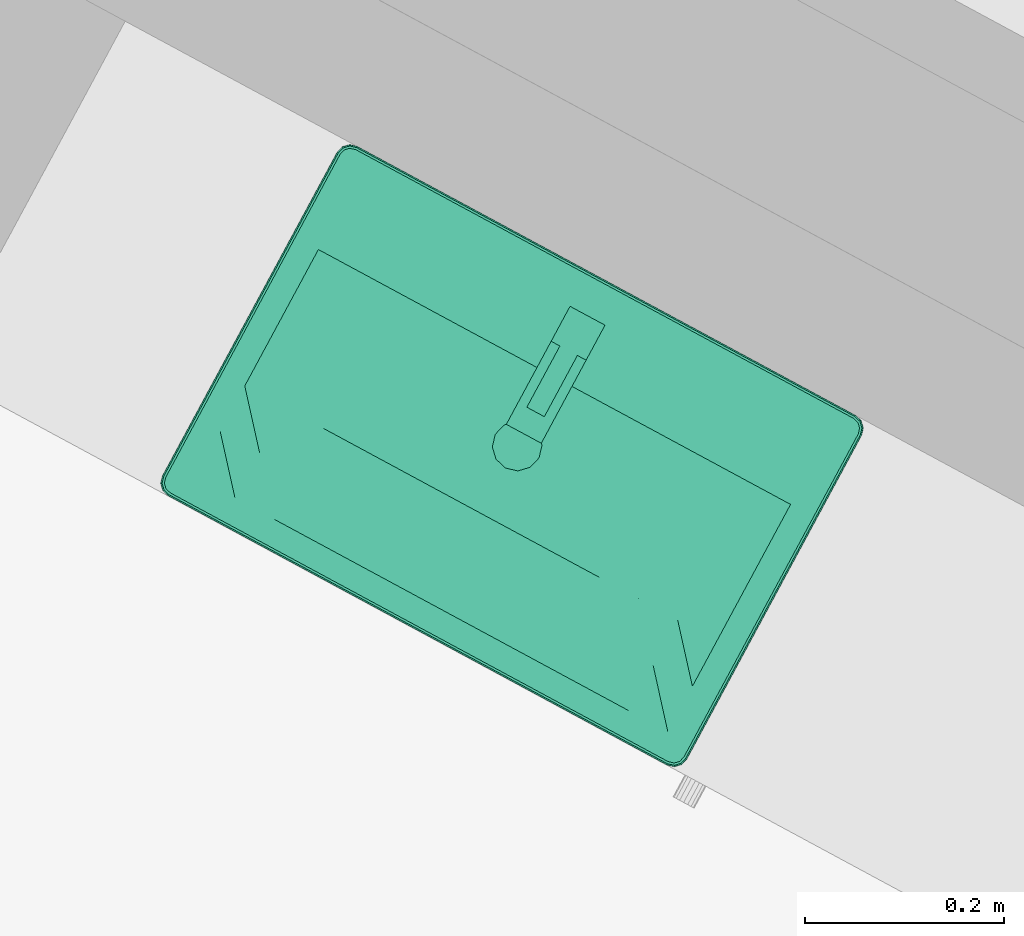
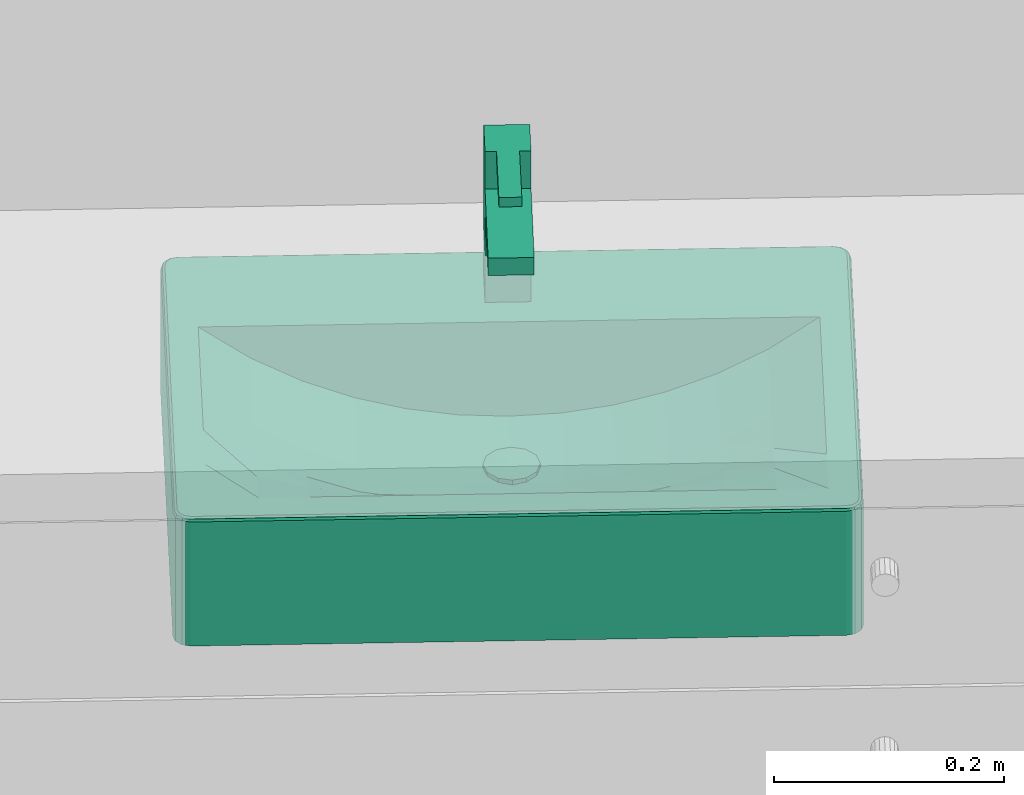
# One storey, part 17 of 36: 1 flow terminal.
"""IFC2X3 building model written with IfcOpenShell, lengths in metres."""

from ifc_helpers import new_model, entity, si_unit, converted_unit, derived_unit, money_unit, direction, frame, origin_with_axes, place, context, subcontext, project, spatial, open_shell, faceted_brep, surface_model, type_object, element, save


model = new_model("IFC2X3")

# Units and contexts
model_context = context("Model", 3, precision=1e-05, world=origin_with_axes(), true_north=direction((0.0, 1.0)))
body_context = subcontext(model_context, "Body", "Model", "MODEL_VIEW")
ifc_project = project(units=[si_unit("LENGTHUNIT", "METRE"), si_unit("AREAUNIT", "SQUARE_METRE"), si_unit("VOLUMEUNIT", "CUBIC_METRE"), converted_unit("PLANEANGLEUNIT", "DEGREE", entity("IfcPlaneAngleMeasure", 0.0174532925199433), si_unit("PLANEANGLEUNIT", "RADIAN"), dimensions=[0, 0, 0, 0, 0, 0, 0]), money_unit("EUR"), converted_unit("TIMEUNIT", "Year", entity("IfcTimeMeasure", 31556926.0), si_unit("TIMEUNIT", "SECOND"), dimensions=[0, 0, 1, 0, 0, 0, 0]), si_unit("MASSUNIT", "GRAM", prefix="KILO"), si_unit("THERMODYNAMICTEMPERATUREUNIT", "DEGREE_CELSIUS"), si_unit("LUMINOUSINTENSITYUNIT", "LUMEN"), si_unit("ENERGYUNIT", "JOULE", prefix="MEGA"), derived_unit("THERMALCONDUCTANCEUNIT", [(si_unit("POWERUNIT", "WATT"), 1), (si_unit("LENGTHUNIT", "METRE"), -1), (si_unit("THERMODYNAMICTEMPERATUREUNIT", "KELVIN"), -1)]), derived_unit("SPECIFICHEATCAPACITYUNIT", [(si_unit("ENERGYUNIT", "JOULE"), 1), (si_unit("MASSUNIT", "GRAM", prefix="KILO"), -1), (si_unit("THERMODYNAMICTEMPERATUREUNIT", "KELVIN"), -1)]), derived_unit("MASSDENSITYUNIT", [(si_unit("MASSUNIT", "GRAM", prefix="KILO"), 1), (si_unit("VOLUMEUNIT", "CUBIC_METRE"), -1)])], contexts=[model_context])

# Site, building, storey
site_placement = place(None, frame((-3.949935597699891, 1.740105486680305, 0.0), z_axis=(0.0, 0.0, 1.0), x_axis=(0.8799804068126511, -0.475009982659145, 0.0)))
site = spatial("IfcSite", under=ifc_project, at=site_placement, Name="Gelände", CompositionType="ELEMENT")
building_placement = place(site_placement, origin_with_axes())
building = spatial("IfcBuilding", under=site, at=building_placement, Name="Gebäude", CompositionType="ELEMENT")
storey_placement = place(building_placement, origin_with_axes())
storey = spatial("IfcBuildingStorey", under=building, at=storey_placement, Name="Erdgeschoss", CompositionType="ELEMENT", Elevation=0.0)

# Flow terminal
sanitary_terminal_type = type_object("IfcSanitaryTerminalType", Name="Waschbecken 1 22", PredefinedType="NOTDEFINED")
flow_terminal_placement = place(storey_placement, frame((16.53573121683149, 6.588040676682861, 0.0), z_axis=(0.0, 0.0, 1.0), x_axis=(1.0, 0.0, 0.0)))
element("IfcFlowTerminal", 1, at=flow_terminal_placement, inside=storey, type_object=sanitary_terminal_type, Name="Objekt-0061", context=body_context, shape_type="SurfaceModel", body=[
    faceted_brep([(-0.285, -0.4, 0.715), (-0.2925, -0.3979903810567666, 0.715), (-0.2979903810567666, -0.3925, 0.715), (-0.3, -0.385, 0.715), (-0.3, -0.01499999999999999, 0.715), (-0.2979903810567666, -0.007500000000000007, 0.715), (-0.2925, -0.002009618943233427, 0.715), (-0.285, 0.0, 0.715), (0.285, 0.0, 0.715), (0.2925, -0.002009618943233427, 0.715), (0.2979903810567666, -0.007500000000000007, 0.715), (0.3, -0.01499999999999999, 0.715), (0.3, -0.385, 0.715), (0.2979903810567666, -0.3925, 0.715), (0.2925, -0.3979903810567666, 0.715), (0.285, -0.4, 0.715), (0.27, -0.37, 0.715), (0.27, -0.11, 0.715), (-0.27, -0.11, 0.715), (-0.27, -0.37, 0.715), (-0.2849999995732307, -0.4000000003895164, 0.845), (-0.292499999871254, -0.3979903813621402, 0.845), (-0.297990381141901, -0.3925000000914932, 0.845), (-0.3000000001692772, -0.3849999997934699, 0.845), (-0.3000000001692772, -0.01499999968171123, 0.845), (-0.297990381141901, -0.00750000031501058, 0.845), (-0.292499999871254, -0.002009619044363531, 0.845), (-0.2849999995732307, 0.0, 0.845), (0.2849999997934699, 0.0, 0.845), (0.2925000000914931, -0.002009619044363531, 0.845), (0.2979903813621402, -0.00750000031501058, 0.845), (0.3000000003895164, -0.01499999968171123, 0.845), (0.3000000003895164, -0.3849999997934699, 0.845), (0.2979903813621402, -0.3925000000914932, 0.845), (0.2925000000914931, -0.3979903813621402, 0.845), (0.2849999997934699, -0.4000000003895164, 0.845), (0.27, -0.11, 0.84999999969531), (0.27, -0.37, 0.84999999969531), (-0.27, -0.11, 0.84999999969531), (-0.27, -0.37, 0.84999999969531), (-0.2849775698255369, -0.3998296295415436, 0.8462940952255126), (-0.292411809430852, -0.3978376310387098, 0.8462940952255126), (-0.2978376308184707, -0.3924118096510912, 0.8462940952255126), (-0.2998296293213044, -0.3849775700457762, 0.8462940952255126), (-0.2998296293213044, -0.01502242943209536, 0.8462940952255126), (-0.2978376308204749, -0.007588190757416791, 0.8462940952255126), (-0.292411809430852, -0.002162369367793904, 0.8462940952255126), (-0.2849775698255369, -0.0001703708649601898, 0.8462940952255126), (0.2849775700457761, -0.0001703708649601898, 0.8462940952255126), (0.2924118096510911, -0.002162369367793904, 0.8462940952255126), (0.297837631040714, -0.007588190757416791, 0.8462940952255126), (0.2998296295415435, -0.01502242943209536, 0.8462940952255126), (0.2998296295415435, -0.3849775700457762, 0.8462940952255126), (0.2978376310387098, -0.3924118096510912, 0.8462940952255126), (0.2924118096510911, -0.3978376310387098, 0.8462940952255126), (0.2849775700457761, -0.3998296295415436, 0.8462940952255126), (0.2843417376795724, -0.004999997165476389, 0.84999999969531), (-0.2843417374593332, -0.004999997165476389, 0.84999999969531), (-0.2899118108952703, -0.006492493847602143, 0.84999999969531), (-0.2935075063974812, -0.01008818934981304, 0.84999999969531), (-0.2950000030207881, -0.01565826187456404, 0.84999999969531), (-0.2950000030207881, -0.3843417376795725, 0.84999999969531), (-0.2935075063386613, -0.3899118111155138, 0.84999999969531), (-0.2899118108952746, -0.3935075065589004, 0.84999999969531), (-0.2843417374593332, -0.3950000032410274, 0.84999999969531), (0.2843417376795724, -0.3950000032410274, 0.84999999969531), (0.2899118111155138, -0.3935075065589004, 0.84999999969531), (0.2935075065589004, -0.3899118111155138, 0.84999999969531), (0.2950000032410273, -0.3843417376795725, 0.84999999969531), (0.2950000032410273, -0.01565826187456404, 0.84999999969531), (0.2935075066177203, -0.01008818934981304, 0.84999999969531), (0.2899118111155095, -0.006492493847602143, 0.84999999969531), (-0.2848071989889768, -0.3985355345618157, 0.8485355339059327), (-0.2917419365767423, -0.3966773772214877, 0.8485355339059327), (-0.2966773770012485, -0.3917419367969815, 0.8485355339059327), (-0.2985355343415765, -0.384807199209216, 0.8485355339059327), (-0.2985355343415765, -0.0151928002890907, 0.8485355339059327), (-0.2966773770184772, -0.008258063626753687, 0.8485355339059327), (-0.2917419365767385, -0.003322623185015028, 0.8485355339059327), (-0.2848071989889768, -0.001464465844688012, 0.8485355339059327), (0.2848071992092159, -0.001464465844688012, 0.8485355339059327), (0.2917419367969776, -0.003322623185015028, 0.8485355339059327), (0.2966773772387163, -0.008258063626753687, 0.8485355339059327), (0.2985355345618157, -0.0151928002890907, 0.8485355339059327), (0.2985355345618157, -0.384807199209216, 0.8485355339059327), (0.2966773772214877, -0.3917419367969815, 0.8485355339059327), (0.2917419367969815, -0.3966773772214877, 0.8485355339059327), (0.2848071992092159, -0.3985355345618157, 0.8485355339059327), (0.2845121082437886, -0.00370590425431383, 0.8498296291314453), (-0.2845121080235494, -0.00370590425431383, 0.8498296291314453), (-0.290581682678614, -0.005332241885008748, 0.8498296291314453), (-0.2946677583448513, -0.009418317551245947, 0.8498296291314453), (-0.2962940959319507, -0.01548789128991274, 0.8498296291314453), (-0.2962940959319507, -0.3845121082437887, 0.8498296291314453), (-0.2946677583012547, -0.3905816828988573, 0.8498296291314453), (-0.2905816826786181, -0.3946677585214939, 0.8498296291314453), (-0.2845121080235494, -0.3962940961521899, 0.8498296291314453), (0.2845121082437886, -0.3962940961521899, 0.8498296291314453), (0.2905816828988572, -0.3946677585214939, 0.8498296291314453), (0.2946677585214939, -0.3905816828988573, 0.8498296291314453), (0.2962940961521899, -0.3845121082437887, 0.8498296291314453), (0.2962940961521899, -0.01548789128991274, 0.8498296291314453), (0.2946677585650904, -0.009418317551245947, 0.8498296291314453), (0.2905816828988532, -0.005332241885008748, 0.8498296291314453)], [[[0, 1, 2, 3, 4, 5, 6, 7, 8, 9, 10, 11, 12, 13, 14, 15], [16, 17, 18, 19]], [[1, 0, 20, 21]], [[2, 1, 21, 22]], [[3, 2, 22, 23]], [[4, 3, 23, 24]], [[5, 4, 24, 25]], [[6, 5, 25, 26]], [[7, 6, 26, 27]], [[8, 7, 27, 28]], [[9, 8, 28, 29]], [[10, 9, 29, 30]], [[11, 10, 30, 31]], [[12, 11, 31, 32]], [[13, 12, 32, 33]], [[14, 13, 33, 34]], [[15, 14, 34, 35]], [[0, 15, 35, 20]], [[36, 17, 16, 37]], [[38, 18, 17, 36]], [[39, 19, 18, 38]], [[37, 16, 19, 39]], [[21, 20, 40, 41]], [[22, 21, 41, 42]], [[23, 22, 42, 43]], [[24, 23, 43, 44]], [[25, 24, 44, 45]], [[26, 25, 45, 46]], [[27, 26, 46, 47]], [[28, 27, 47, 48]], [[29, 28, 48, 49]], [[30, 29, 49, 50]], [[31, 30, 50, 51]], [[32, 31, 51, 52]], [[33, 32, 52, 53]], [[34, 33, 53, 54]], [[35, 34, 54, 55]], [[20, 35, 55, 40]], [[56, 57, 58, 59, 60, 61, 62, 63, 64, 65, 66, 67, 68, 69, 70, 71], [37, 39, 38, 36]], [[41, 40, 72, 73]], [[42, 41, 73, 74]], [[43, 42, 74, 75]], [[44, 43, 75, 76]], [[45, 44, 76, 77]], [[46, 45, 77, 78]], [[47, 46, 78, 79]], [[48, 47, 79, 80]], [[49, 48, 80, 81]], [[50, 49, 81, 82]], [[51, 50, 82, 83]], [[52, 51, 83, 84]], [[53, 52, 84, 85]], [[54, 53, 85, 86]], [[55, 54, 86, 87]], [[40, 55, 87, 72]], [[88, 89, 57, 56]], [[89, 90, 58, 57]], [[90, 91, 59, 58]], [[91, 92, 60, 59]], [[92, 93, 61, 60]], [[93, 94, 62, 61]], [[94, 95, 63, 62]], [[95, 96, 64, 63]], [[96, 97, 65, 64]], [[97, 98, 66, 65]], [[98, 99, 67, 66]], [[99, 100, 68, 67]], [[100, 101, 69, 68]], [[101, 102, 70, 69]], [[102, 103, 71, 70]], [[103, 88, 56, 71]], [[73, 72, 96, 95]], [[74, 73, 95, 94]], [[75, 74, 94, 93]], [[76, 75, 93, 92]], [[77, 76, 92, 91]], [[78, 77, 91, 90]], [[79, 78, 90, 89]], [[80, 79, 89, 88]], [[81, 80, 88, 103]], [[82, 81, 103, 102]], [[83, 82, 102, 101]], [[84, 83, 101, 100]], [[85, 84, 100, 99]], [[86, 85, 99, 98]], [[87, 86, 98, 97]], [[72, 87, 97, 96]]]),
    faceted_brep([(0.27, -0.37, 0.715), (-0.27, -0.37, 0.715), (-0.27, -0.11, 0.715), (0.27, -0.11, 0.715), (-0.01249999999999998, -0.210733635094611, 0.715), (0.0, -0.214083, 0.715), (0.01250000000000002, -0.210733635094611, 0.715), (0.02165063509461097, -0.201583, 0.715), (0.025, -0.189083, 0.715), (0.02165063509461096, -0.176583, 0.715), (0.01249999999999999, -0.167432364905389, 0.715), (0.0, -0.164083, 0.715), (-0.01250000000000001, -0.167432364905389, 0.715), (-0.02165063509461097, -0.176583, 0.715), (-0.025, -0.189083, 0.715), (-0.02165063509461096, -0.201583, 0.715), (0.135, -0.37, 0.85), (0.09, -0.37, 0.85), (0.04499999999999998, -0.37, 0.85), (0.0, -0.37, 0.85), (-0.04500000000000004, -0.37, 0.85), (-0.09000000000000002, -0.37, 0.85), (-0.135, -0.37, 0.85), (-0.18, -0.37, 0.85), (-0.225, -0.37, 0.85), (-0.27, -0.37, 0.85), (0.27, -0.37, 0.85), (0.225, -0.37, 0.85), (0.18, -0.37, 0.85), (-0.27, -0.214, 0.8499999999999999), (-0.27, -0.162, 0.8499999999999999), (-0.27, -0.11, 0.8499999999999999), (-0.27, -0.318, 0.85), (-0.27, -0.266, 0.8499999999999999), (-0.135, -0.11, 0.7726004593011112), (-0.09000000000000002, -0.11, 0.7598887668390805), (-0.04500000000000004, -0.11, 0.752449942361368), (0.0, -0.11, 0.75), (0.04499999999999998, -0.11, 0.752449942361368), (0.09, -0.11, 0.7598887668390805), (0.135, -0.11, 0.7726004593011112), (0.18, -0.11, 0.7911231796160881), (0.225, -0.11, 0.8163832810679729), (0.27, -0.11, 0.8500000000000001), (-0.225, -0.11, 0.8163832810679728), (-0.18, -0.11, 0.7911231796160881), (0.27, -0.266, 0.85), (0.27, -0.318, 0.85), (0.27, -0.162, 0.8500000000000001), (0.27, -0.214, 0.8500000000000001), (-0.0003097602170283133, -0.214, 0.7500168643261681), (0.0, -0.214083, 0.7500182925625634), (-0.01249999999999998, -0.210733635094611, 0.7506805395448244), (5.830679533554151e-05, -0.2140673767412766, 0.750017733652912), (0.0003097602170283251, -0.214, 0.7500168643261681), (0.01250000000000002, -0.210733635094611, 0.7506805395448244), (0.02165063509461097, -0.201583, 0.7511787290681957), (0.025, -0.189083, 0.7513610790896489), (0.02165063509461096, -0.176583, 0.7511787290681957), (0.01249999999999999, -0.167432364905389, 0.7506805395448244), (0.0, -0.164083, 0.75), (-0.01250000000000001, -0.167432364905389, 0.7506805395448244), (-0.02165063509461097, -0.176583, 0.7511787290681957), (-0.025, -0.189083, 0.7513610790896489), (-0.02165063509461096, -0.201583, 0.7511787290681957), (0.09, -0.318, 0.8096989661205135), (0.04499999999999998, -0.318, 0.8060213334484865), (0.0, -0.318, 0.8047990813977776), (-0.04500000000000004, -0.318, 0.8060213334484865), (-0.09000000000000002, -0.318, 0.8096989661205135), (-0.135, -0.318, 0.8158650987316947), (-0.18, -0.318, 0.8245766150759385), (-0.225, -0.318, 0.8359168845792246), (0.225, -0.318, 0.8359168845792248), (0.18, -0.318, 0.8245766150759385), (0.135, -0.318, 0.8158650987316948), (-0.225, -0.214, 0.8163832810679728), (-0.225, -0.162, 0.8163832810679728), (-0.225, -0.266, 0.8208433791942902), (-0.135, -0.162, 0.7726004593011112), (-0.09000000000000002, -0.162, 0.7598887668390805), (-0.04500000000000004, -0.162, 0.752449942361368), (0.0, -0.162, 0.75), (0.04499999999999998, -0.162, 0.752449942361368), (0.09, -0.162, 0.7598887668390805), (0.135, -0.162, 0.7726004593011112), (0.18, -0.162, 0.7911231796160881), (0.225, -0.162, 0.8163832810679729), (-0.18, -0.162, 0.7911231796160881), (0.225, -0.266, 0.8208433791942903), (0.225, -0.214, 0.8163832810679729), (-0.04500000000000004, -0.214, 0.752449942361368), (0.0, -0.266, 0.7614604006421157), (0.04499999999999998, -0.266, 0.7636864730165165), (0.04499999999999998, -0.214, 0.752449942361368), (-0.18, -0.214, 0.7911231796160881), (-0.135, -0.214, 0.7726004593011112), (-0.09000000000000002, -0.214, 0.7598887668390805), (0.09, -0.214, 0.7598887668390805), (0.135, -0.214, 0.7726004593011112), (0.18, -0.214, 0.7911231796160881), (-0.04500000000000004, -0.266, 0.7636864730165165), (0.09, -0.266, 0.7704312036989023), (-0.09000000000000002, -0.266, 0.7704312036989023), (-0.135, -0.266, 0.781904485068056), (-0.18, -0.266, 0.7984946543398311), (0.18, -0.266, 0.7984946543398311), (0.135, -0.266, 0.781904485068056)], [[[0, 1, 2, 3], [4, 5, 6, 7, 8, 9, 10, 11, 12, 13, 14, 15]], [[16, 17, 18, 19, 20, 21, 22, 23, 24, 25, 1, 0, 26, 27, 28]], [[29, 30, 31, 2, 1, 25, 32, 33]], [[34, 35, 36, 37, 38, 39, 40, 41, 42, 43, 3, 2, 31, 44, 45]], [[46, 47, 26, 0, 3, 43, 48, 49]], [[50, 51, 5, 4, 52]], [[53, 54, 55, 6, 5, 51]], [[56, 7, 6, 55]], [[57, 8, 7, 56]], [[58, 9, 8, 57]], [[59, 10, 9, 58]], [[60, 11, 10, 59]], [[61, 12, 11, 60]], [[62, 13, 12, 61]], [[63, 14, 13, 62]], [[64, 15, 14, 63]], [[52, 4, 15, 64]], [[16, 65, 17]], [[17, 66, 18]], [[18, 67, 19]], [[19, 68, 20]], [[20, 69, 21]], [[21, 70, 22]], [[22, 71, 23]], [[23, 72, 24]], [[24, 32, 25]], [[26, 73, 27]], [[27, 74, 28]], [[28, 75, 16]], [[29, 76, 77, 30]], [[30, 77, 44, 31]], [[72, 33, 32]], [[78, 29, 33]], [[79, 80, 35, 34]], [[80, 81, 36, 35]], [[81, 82, 37, 36]], [[82, 83, 38, 37]], [[83, 84, 39, 38]], [[84, 85, 40, 39]], [[85, 86, 41, 40]], [[86, 87, 42, 41]], [[87, 48, 43, 42]], [[77, 88, 45, 44]], [[88, 79, 34, 45]], [[47, 46, 89]], [[26, 47, 73]], [[90, 49, 48, 87]], [[46, 49, 90]], [[50, 91, 92, 51]], [[61, 60, 82, 81, 91, 50, 52, 64, 63, 62]], [[53, 93, 94, 54]], [[59, 58, 57, 56, 55, 54, 94, 83, 82, 60]], [[51, 92, 93, 53]], [[16, 75, 65]], [[17, 65, 66]], [[18, 66, 67]], [[19, 67, 68]], [[20, 68, 69]], [[21, 69, 70]], [[22, 70, 71]], [[23, 71, 72]], [[24, 72, 32]], [[27, 73, 74]], [[28, 74, 75]], [[78, 76, 29]], [[76, 95, 88, 77]], [[72, 78, 33]], [[96, 97, 80, 79]], [[97, 91, 81, 80]], [[94, 98, 84, 83]], [[98, 99, 85, 84]], [[99, 100, 86, 85]], [[100, 90, 87, 86]], [[95, 96, 79, 88]], [[46, 90, 89]], [[47, 89, 73]], [[92, 91, 101]], [[102, 94, 93]], [[66, 93, 92]], [[75, 102, 65]], [[65, 93, 66]], [[66, 92, 67]], [[67, 101, 68]], [[68, 103, 69]], [[69, 104, 70]], [[70, 105, 71]], [[71, 78, 72]], [[73, 106, 74]], [[74, 107, 75]], [[105, 76, 78]], [[105, 95, 76]], [[103, 97, 96]], [[101, 91, 97]], [[102, 98, 94]], [[107, 99, 98]], [[106, 100, 99]], [[89, 90, 100]], [[104, 96, 95]], [[73, 89, 106]], [[67, 92, 101]], [[65, 102, 93]], [[75, 107, 102]], [[68, 101, 103]], [[69, 103, 104]], [[70, 104, 105]], [[71, 105, 78]], [[74, 106, 107]], [[104, 95, 105]], [[101, 97, 103]], [[103, 96, 104]], [[107, 98, 102]], [[106, 99, 107]], [[89, 100, 106]]]),
    faceted_brep([(-0.02165063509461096, -0.201583, 0.75), (-0.025, -0.189083, 0.75), (-0.02165063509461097, -0.176583, 0.75), (-0.01250000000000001, -0.167432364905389, 0.75), (0.0, -0.164083, 0.75), (0.01249999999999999, -0.167432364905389, 0.75), (0.02165063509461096, -0.176583, 0.75), (0.025, -0.189083, 0.75), (0.02165063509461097, -0.201583, 0.75), (0.01250000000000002, -0.210733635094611, 0.75), (0.0, -0.214083, 0.75), (-0.01249999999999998, -0.210733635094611, 0.75), (-0.02165063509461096, -0.201583, 0.755), (-0.025, -0.189083, 0.755), (-0.02165063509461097, -0.176583, 0.755), (-0.01250000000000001, -0.167432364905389, 0.755), (0.0, -0.164083, 0.755), (0.01249999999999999, -0.167432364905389, 0.755), (0.02165063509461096, -0.176583, 0.755), (0.025, -0.189083, 0.755), (0.02165063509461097, -0.201583, 0.755), (0.01250000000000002, -0.210733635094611, 0.755), (0.0, -0.214083, 0.755), (-0.01249999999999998, -0.210733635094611, 0.755)], [[[0, 1, 2, 3, 4, 5, 6, 7, 8, 9, 10, 11]], [[0, 12, 13, 1]], [[1, 13, 14, 2]], [[2, 14, 15, 3]], [[3, 15, 16, 4]], [[4, 16, 17, 5]], [[5, 17, 18, 6]], [[6, 18, 19, 7]], [[7, 19, 20, 8]], [[8, 20, 21, 9]], [[9, 21, 22, 10]], [[10, 22, 23, 11]], [[11, 23, 12, 0]], [[12, 23, 22, 21, 20, 19, 18, 17, 16, 15, 14, 13]]]),
    surface_model("IfcShellBasedSurfaceModel", [(0.0, -0.189083, 0.757), (0.006310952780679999, -0.1781521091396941, 0.7564975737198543), (0.0, -0.17646109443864, 0.7564975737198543), (0.01093089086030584, -0.18277204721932, 0.7564975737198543), (0.0125, -0.167432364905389, 0.755), (0.0, -0.164083, 0.755), (-0.006310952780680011, -0.1781521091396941, 0.7564975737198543), (0.01262190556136, -0.189083, 0.7564975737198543), (0.02165063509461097, -0.176583, 0.755), (-0.01250000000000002, -0.167432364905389, 0.755), (-0.01093089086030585, -0.18277204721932, 0.7564975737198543), (0.01093089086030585, -0.19539395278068, 0.7564975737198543), (0.025, -0.189083, 0.755), (-0.02165063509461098, -0.176583, 0.755), (-0.01262190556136, -0.189083, 0.7564975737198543), (0.006310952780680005, -0.2000138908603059, 0.7564975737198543), (0.02165063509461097, -0.201583, 0.755), (-0.025, -0.189083, 0.755), (-0.01093089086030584, -0.19539395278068, 0.7564975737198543), (0.0, -0.20170490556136, 0.7564975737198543), (0.01250000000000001, -0.210733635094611, 0.755), (-0.02165063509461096, -0.201583, 0.755), (-0.006310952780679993, -0.2000138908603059, 0.7564975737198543), (0.0, -0.214083, 0.755), (-0.01249999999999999, -0.210733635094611, 0.755)], [open_shell([[[0, 1, 2]], [[0, 3, 1]], [[1, 4, 5, 2]], [[0, 2, 6]], [[0, 7, 3]], [[3, 8, 4, 1]], [[2, 5, 9, 6]], [[0, 6, 10]], [[0, 11, 7]], [[7, 12, 8, 3]], [[6, 9, 13, 10]], [[0, 10, 14]], [[0, 15, 11]], [[11, 16, 12, 7]], [[10, 13, 17, 14]], [[0, 14, 18]], [[0, 19, 15]], [[15, 20, 16, 11]], [[14, 17, 21, 18]], [[0, 18, 22]], [[0, 22, 19]], [[19, 23, 20, 15]], [[18, 21, 24, 22]], [[22, 24, 23, 19]]])]),
    faceted_brep([(-0.02, -0.03999999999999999, 0.85), (0.02, -0.04, 0.85), (0.02, -0.08, 0.85), (-0.02, -0.08, 0.85), (-0.02000000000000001, -0.03999999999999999, 0.97), (0.01999999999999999, -0.04, 0.97), (0.01999999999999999, -0.08, 0.97), (0.01999999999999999, -0.175, 0.9633569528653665), (0.01999999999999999, -0.175, 0.945), (0.01999999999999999, -0.08, 0.945), (-0.02000000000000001, -0.08, 0.945), (-0.02000000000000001, -0.175, 0.945), (-0.02000000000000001, -0.175, 0.9633569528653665), (-0.02000000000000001, -0.08, 0.97)], [[[0, 1, 2, 3]], [[4, 5, 1, 0]], [[1, 5, 6, 7, 8, 9, 2]], [[3, 2, 9, 10]], [[0, 3, 10, 11, 12, 13, 4]], [[13, 6, 5, 4]], [[12, 7, 6, 13]], [[11, 8, 7, 12]], [[10, 9, 8, 11]]]),
    faceted_brep([(-0.02, -0.03999999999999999, 0.97), (0.02, -0.04, 0.97), (0.02, -0.08, 0.97), (-0.02, -0.08, 0.97), (-0.02, -0.03999999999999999, 1.01), (0.02, -0.04, 1.01), (0.01999999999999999, -0.08, 1.01), (-0.02, -0.08, 1.01)], [[[0, 1, 2, 3]], [[4, 5, 1, 0]], [[1, 5, 6, 2]], [[3, 2, 6, 7]], [[0, 3, 7, 4]], [[7, 6, 5, 4]]]),
    faceted_brep([(-0.01, -0.08, 1.0), (0.009999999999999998, -0.08, 1.0), (0.009999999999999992, -0.15, 1.0), (-0.01000000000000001, -0.15, 1.0), (-0.01, -0.08, 1.01), (0.009999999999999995, -0.08, 1.01), (0.009999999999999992, -0.15, 1.01), (-0.01000000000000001, -0.15, 1.01)], [[[0, 1, 2, 3]], [[4, 5, 1, 0]], [[1, 5, 6, 2]], [[3, 2, 6, 7]], [[0, 3, 7, 4]], [[7, 6, 5, 4]]]),
])

save(model, "model.ifc")
